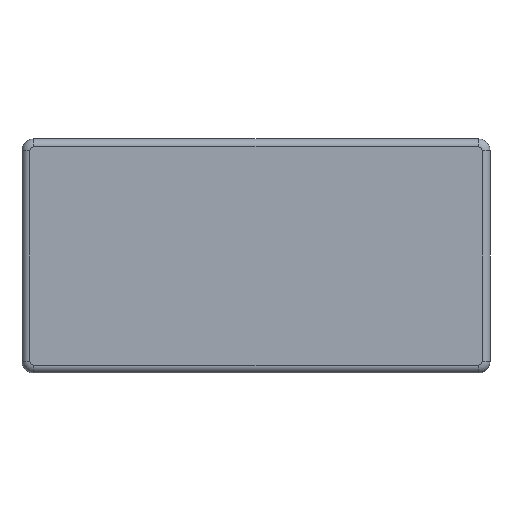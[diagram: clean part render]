
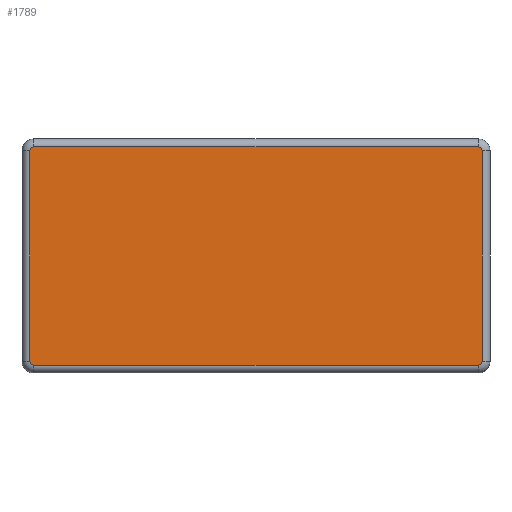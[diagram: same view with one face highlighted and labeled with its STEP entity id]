
A CAD part, front view. The second image highlights one B-rep face of the part: STEP entity #1789.
In plain terms, the highlighted planar face has unit normal (0, -1, 0).
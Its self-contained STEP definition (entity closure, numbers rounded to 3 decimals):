
#166 = PLANE ( 'NONE',  #2661 ) ;
#200 = ORIENTED_EDGE ( 'NONE', *, *, #2948, .T. ) ;
#211 = DIRECTION ( 'NONE',  ( 0., 1., 0. ) ) ;
#227 = CIRCLE ( 'NONE', #1792, 1. ) ;
#256 = CARTESIAN_POINT ( 'NONE',  ( 88.448, 0., 25.812 ) ) ;
#283 = DIRECTION ( 'NONE',  ( 0., 0., -1. ) ) ;
#299 = EDGE_CURVE ( 'NONE', #1669, #861, #227, .T. ) ;
#366 = EDGE_CURVE ( 'NONE', #644, #1654, #1922, .T. ) ;
#370 = ORIENTED_EDGE ( 'NONE', *, *, #366, .T. ) ;
#415 = EDGE_CURVE ( 'NONE', #861, #2922, #1760, .T. ) ;
#560 = CARTESIAN_POINT ( 'NONE',  ( -25.552, 0., 25.812 ) ) ;
#611 = CARTESIAN_POINT ( 'NONE',  ( -25.552, 0., -29.188 ) ) ;
#644 = VERTEX_POINT ( 'NONE', #560 ) ;
#652 = FACE_OUTER_BOUND ( 'NONE', #978, .T. ) ;
#673 = CARTESIAN_POINT ( 'NONE',  ( -26.552, 0., -29.188 ) ) ;
#771 = EDGE_CURVE ( 'NONE', #848, #644, #1175, .T. ) ;
#848 = VERTEX_POINT ( 'NONE', #256 ) ;
#861 = VERTEX_POINT ( 'NONE', #1525 ) ;
#870 = DIRECTION ( 'NONE',  ( 0., 0., 1. ) ) ;
#892 = CIRCLE ( 'NONE', #2341, 1. ) ;
#910 = DIRECTION ( 'NONE',  ( 0., -1., 0. ) ) ;
#970 = VECTOR ( 'NONE', #2308, 1000. ) ;
#978 = EDGE_LOOP ( 'NONE', ( #1973, #370, #200, #3095, #2249, #1564, #1897, #2336 ) ) ;
#979 = DIRECTION ( 'NONE',  ( 0., 0., 1. ) ) ;
#1007 = CARTESIAN_POINT ( 'NONE',  ( -26.552, 0., 24.812 ) ) ;
#1175 = LINE ( 'NONE', #1526, #1889 ) ;
#1283 = CARTESIAN_POINT ( 'NONE',  ( 89.448, 0., 24.812 ) ) ;
#1291 = CARTESIAN_POINT ( 'NONE',  ( 88.448, 0., -30.188 ) ) ;
#1319 = VERTEX_POINT ( 'NONE', #2997 ) ;
#1339 = CARTESIAN_POINT ( 'NONE',  ( 0., 0., -30.188 ) ) ;
#1475 = VECTOR ( 'NONE', #1630, 1000. ) ;
#1491 = CARTESIAN_POINT ( 'NONE',  ( -25.552, 0., 24.812 ) ) ;
#1525 = CARTESIAN_POINT ( 'NONE',  ( 89.448, 0., -29.188 ) ) ;
#1526 = CARTESIAN_POINT ( 'NONE',  ( 0., 0., 25.812 ) ) ;
#1564 = ORIENTED_EDGE ( 'NONE', *, *, #299, .T. ) ;
#1630 = DIRECTION ( 'NONE',  ( 1., 0., 0. ) ) ;
#1654 = VERTEX_POINT ( 'NONE', #1007 ) ;
#1669 = VERTEX_POINT ( 'NONE', #1291 ) ;
#1755 = VERTEX_POINT ( 'NONE', #673 ) ;
#1760 = LINE ( 'NONE', #2044, #970 ) ;
#1765 = DIRECTION ( 'NONE',  ( 0., 0., 1. ) ) ;
#1789 = ADVANCED_FACE ( 'NONE', ( #652 ), #166, .F. ) ;
#1792 = AXIS2_PLACEMENT_3D ( 'NONE', #3350, #2298, #979 ) ;
#1846 = CARTESIAN_POINT ( 'NONE',  ( -26.552, 0., 0. ) ) ;
#1889 = VECTOR ( 'NONE', #3125, 1000. ) ;
#1897 = ORIENTED_EDGE ( 'NONE', *, *, #415, .T. ) ;
#1922 = CIRCLE ( 'NONE', #1969, 1. ) ;
#1969 = AXIS2_PLACEMENT_3D ( 'NONE', #1491, #3345, #1765 ) ;
#1973 = ORIENTED_EDGE ( 'NONE', *, *, #771, .T. ) ;
#2003 = AXIS2_PLACEMENT_3D ( 'NONE', #2501, #910, #2769 ) ;
#2037 = DIRECTION ( 'NONE',  ( 0., 0., 1. ) ) ;
#2044 = CARTESIAN_POINT ( 'NONE',  ( 89.448, 0., 0. ) ) ;
#2242 = EDGE_CURVE ( 'NONE', #1755, #1319, #892, .T. ) ;
#2244 = CARTESIAN_POINT ( 'NONE',  ( 0., 0., 0. ) ) ;
#2249 = ORIENTED_EDGE ( 'NONE', *, *, #2252, .T. ) ;
#2252 = EDGE_CURVE ( 'NONE', #1319, #1669, #2921, .T. ) ;
#2298 = DIRECTION ( 'NONE',  ( 0., -1., 0. ) ) ;
#2308 = DIRECTION ( 'NONE',  ( 0., 0., 1. ) ) ;
#2336 = ORIENTED_EDGE ( 'NONE', *, *, #3393, .T. ) ;
#2341 = AXIS2_PLACEMENT_3D ( 'NONE', #611, #2452, #870 ) ;
#2357 = LINE ( 'NONE', #1846, #2450 ) ;
#2450 = VECTOR ( 'NONE', #283, 1000. ) ;
#2452 = DIRECTION ( 'NONE',  ( 0., -1., 0. ) ) ;
#2501 = CARTESIAN_POINT ( 'NONE',  ( 88.448, 0., 24.812 ) ) ;
#2661 = AXIS2_PLACEMENT_3D ( 'NONE', #2244, #211, #2037 ) ;
#2769 = DIRECTION ( 'NONE',  ( 0., 0., 1. ) ) ;
#2921 = LINE ( 'NONE', #1339, #1475 ) ;
#2922 = VERTEX_POINT ( 'NONE', #1283 ) ;
#2948 = EDGE_CURVE ( 'NONE', #1654, #1755, #2357, .T. ) ;
#2997 = CARTESIAN_POINT ( 'NONE',  ( -25.552, 0., -30.188 ) ) ;
#3095 = ORIENTED_EDGE ( 'NONE', *, *, #2242, .T. ) ;
#3125 = DIRECTION ( 'NONE',  ( -1., 0., 0. ) ) ;
#3325 = CIRCLE ( 'NONE', #2003, 1. ) ;
#3345 = DIRECTION ( 'NONE',  ( 0., -1., 0. ) ) ;
#3350 = CARTESIAN_POINT ( 'NONE',  ( 88.448, 0., -29.188 ) ) ;
#3393 = EDGE_CURVE ( 'NONE', #2922, #848, #3325, .T. ) ;
